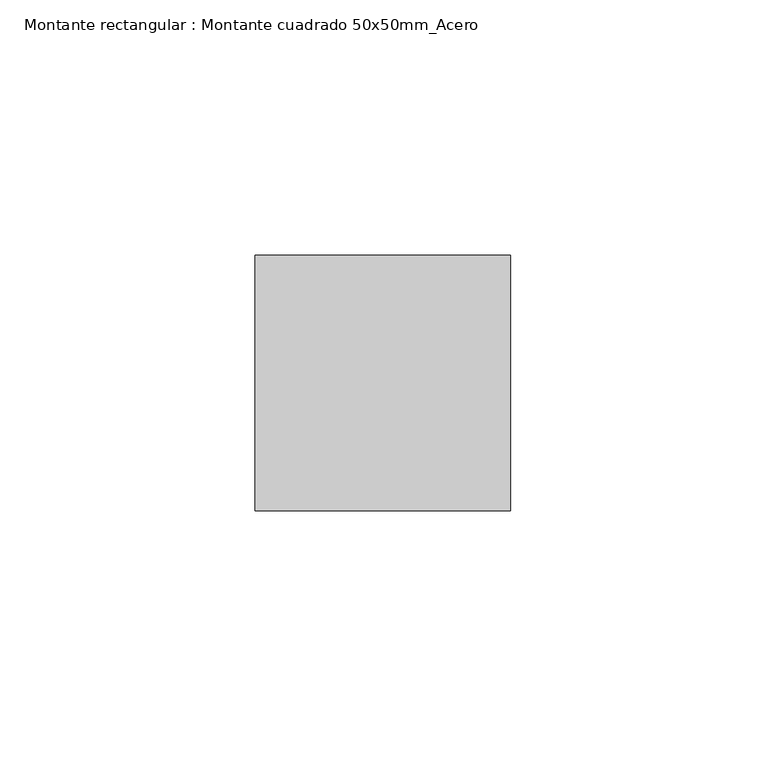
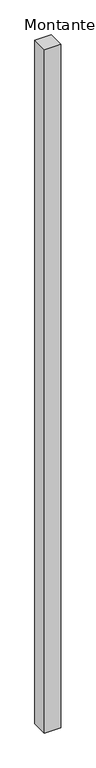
"""IFC4 building model written with IfcOpenShell, lengths in millimetres: member geometry, Montante rectangular : Montante cuadrado 50x50mm_Acero."""

import ifcopenshell
import ifcopenshell.guid

model = None  # the IFC model being written
_history = None  # IfcOwnerHistory: only IFC2X3 demands one
_inside = {}  # id of a spatial element -> (the spatial element, [elements in it])
_under = {}  # id of a project, library or spatial element -> (it, [spatial elements below it])
_declared = {}  # id of a project -> (the project, [libraries it declares])
_typed = {}  # id of a type object -> (the type object, [elements of that type])
_made_of = {}  # id of a material, layer set ... -> (it, [elements and type objects made of it])


def new_model(schema):
    """Start an empty IFC model of exactly this schema.

    Asked for "IFC4X3", IfcOpenShell would pick the latest addendum, in which some entities
    have other attributes; the version numbers below select the first issue.
    IFC2X3 requires an IfcOwnerHistory on every rooted entity: one is made here for all.
    """
    global model, _history
    if schema == "IFC4X3":
        model = ifcopenshell.file(schema_version=(4, 3, 0, 0))
    else:
        model = ifcopenshell.file(schema=schema)
    _inside.clear()
    _under.clear()
    _declared.clear()
    _typed.clear()
    _made_of.clear()
    _history = None
    if model.schema == "IFC2X3":
        org = make("IfcOrganization", Name="unknown")
        user = make(
            "IfcPersonAndOrganization",
            ThePerson=make("IfcPerson", FamilyName="unknown"),
            TheOrganization=org,
        )
        app = make(
            "IfcApplication",
            ApplicationDeveloper=org,
            Version="unknown",
            ApplicationFullName="unknown",
            ApplicationIdentifier="unknown",
        )
        _history = make(
            "IfcOwnerHistory",
            OwningUser=user,
            OwningApplication=app,
            ChangeAction="ADDED",
            CreationDate=0,
        )
    return model


def make(cls, **values):
    """One entity of the class cls with the attributes given. An attribute that is None is left unset."""
    return model.create_entity(
        cls, **{name: value for name, value in values.items() if value is not None}
    )


def rooted(cls, **values):
    """An entity with a GlobalId (a new one), such as an element, a storey or a relation."""
    return make(cls, GlobalId=ifcopenshell.guid.new(), OwnerHistory=_history, **values)


def si_unit(unit_type, name, prefix=None):
    """IfcSIUnit, for example si_unit("LENGTHUNIT", "METRE", prefix="MILLI")."""
    return make("IfcSIUnit", UnitType=unit_type, Prefix=prefix, Name=name)


def assignment(units):
    """IfcUnitAssignment: the units of a project."""
    return None if units is None else make("IfcUnitAssignment", Units=units)


def point(xyz):
    """IfcCartesianPoint."""
    return None if xyz is None else make("IfcCartesianPoint", Coordinates=xyz)


def direction(xyz):
    """IfcDirection."""
    return None if xyz is None else make("IfcDirection", DirectionRatios=xyz)


def frame(location, z_axis=None, x_axis=None):
    """IfcAxis2Placement3D, a coordinate frame: its origin and axes. An axis left out is left unset."""
    return make(
        "IfcAxis2Placement3D",
        Location=point(location),
        Axis=direction(z_axis),
        RefDirection=direction(x_axis),
    )


def origin():
    """The frame at (0, 0, 0) with its axes left unset."""
    return frame((0.0, 0.0, 0.0))


def place(relative_to, where):
    """IfcLocalPlacement: puts the frame where relative to a parent placement (None: the world)."""
    return make(
        "IfcLocalPlacement", PlacementRelTo=relative_to, RelativePlacement=where
    )


def context(
    kind, dimensions, precision=None, world=None, true_north=None, identifier=None
):
    """IfcGeometricRepresentationContext, for example the 3D "Model" context."""
    return make(
        "IfcGeometricRepresentationContext",
        ContextIdentifier=identifier,
        ContextType=kind,
        CoordinateSpaceDimension=dimensions,
        Precision=precision,
        WorldCoordinateSystem=world,
        TrueNorth=true_north,
    )


def project(units=None, contexts=None):
    """IfcProject with its units and contexts."""
    return rooted(
        "IfcProject",
        Name="project",
        RepresentationContexts=contexts,
        UnitsInContext=assignment(units),
    )


def spatial(cls, under=None, at=None, **own):
    """A site, building, storey or space (cls), placed at a placement, below another one or the project."""
    s = rooted(cls, ObjectPlacement=at, **own)
    if under is not None:
        _under.setdefault(under.id(), (under, []))[1].append(s)
    return s


def polyline(points):
    """IfcPolyline through the points."""
    return make("IfcPolyline", Points=[point(p) for p in points])


def outline(outer, holes=None, kind="AREA"):
    """IfcArbitraryClosedProfileDef: a profile drawn as a closed curve; with holes, ...WithVoids."""
    if holes is None:
        return make("IfcArbitraryClosedProfileDef", ProfileType=kind, OuterCurve=outer)
    return make(
        "IfcArbitraryProfileDefWithVoids",
        ProfileType=kind,
        OuterCurve=outer,
        InnerCurves=holes,
    )


def extrude(swept, where, along, depth):
    """IfcExtrudedAreaSolid: the profile swept, set in the frame where, extruded along a direction by depth."""
    return make(
        "IfcExtrudedAreaSolid",
        SweptArea=swept,
        Position=where,
        ExtrudedDirection=direction(along),
        Depth=depth,
    )


def shape(context_of_items, identifier, shape_type, items):
    """IfcShapeRepresentation: the items that make up one representation, for example the "Body"."""
    return make(
        "IfcShapeRepresentation",
        ContextOfItems=context_of_items,
        RepresentationIdentifier=identifier,
        RepresentationType=shape_type,
        Items=items,
    )


def source(mapping_origin, context_of_items, identifier, shape_type, items):
    """IfcRepresentationMap: a shape defined once, which mapped items show again and again."""
    return make(
        "IfcRepresentationMap",
        MappingOrigin=mapping_origin,
        MappedRepresentation=shape(context_of_items, identifier, shape_type, items),
    )


def transform(
    local_origin,
    x_axis=None,
    y_axis=None,
    z_axis=None,
    scale=None,
    scale2=None,
    scale3=None,
    uniform=True,
):
    """IfcCartesianTransformationOperator3D, or its non-uniform kind. x_axis, y_axis, z_axis: its Axis1, 2, 3."""
    if uniform:
        return make(
            "IfcCartesianTransformationOperator3D",
            Axis1=direction(x_axis),
            Axis2=direction(y_axis),
            LocalOrigin=point(local_origin),
            Scale=scale,
            Axis3=direction(z_axis),
        )
    return make(
        "IfcCartesianTransformationOperator3DnonUniform",
        Axis1=direction(x_axis),
        Axis2=direction(y_axis),
        LocalOrigin=point(local_origin),
        Scale=scale,
        Axis3=direction(z_axis),
        Scale2=scale2,
        Scale3=scale3,
    )


def mapped(mapping_source, mapping_target):
    """IfcMappedItem: shows the shape of a source again, moved by a transform."""
    return make(
        "IfcMappedItem", MappingSource=mapping_source, MappingTarget=mapping_target
    )


def made_of(thing, what):
    """Note that an element or type object is made of a material, layer set ...; save() writes the relation."""
    if what is not None:
        _made_of.setdefault(what.id(), (what, []))[1].append(thing)
    return thing


def element(
    cls,
    number,
    at=None,
    inside=None,
    cuts=None,
    type_object=None,
    material=None,
    context=None,
    identifier="Body",
    shape_type=None,
    held_by="IfcProductDefinitionShape",
    body=None,
    shapes=None,
    **own,
):
    """One element of the class cls, such as IfcWall. Its Tag is "e" and its number.

    at: its placement. inside: the storey or other place that contains it. cuts: it is an
    opening in that element (IfcRelVoidsElement). A single representation is given by context,
    identifier, shape_type and body (its items); several are given by shapes. held_by: the class
    of the entity that holds the representations. save() writes the other relations.
    """
    e = rooted(cls, Tag="e%d" % number, ObjectPlacement=at, **own)
    if body is not None:
        shapes = [shape(context, identifier, shape_type, body)]
    if shapes is not None:
        e.Representation = make(held_by, Representations=shapes)
    if inside is not None:
        _inside.setdefault(inside.id(), (inside, []))[1].append(e)
    if cuts is not None:
        rooted(
            "IfcRelVoidsElement", RelatingBuildingElement=cuts, RelatedOpeningElement=e
        )
    if type_object is not None:
        _typed.setdefault(type_object.id(), (type_object, []))[1].append(e)
    return made_of(e, material)


def aggregate(whole, parts):
    """IfcRelAggregates: a whole, such as a stair, and the parts it consists of."""
    return rooted("IfcRelAggregates", RelatingObject=whole, RelatedObjects=parts)


def save(model, path):
    """Write the relations noted so far, then the file.

    IfcRelAggregates (storeys below a building ...), IfcRelContainedInSpatialStructure (elements
    in a storey), IfcRelDefinesByType, IfcRelAssociatesMaterial and IfcRelDeclares: one each for
    every whole, place, type object, material and project.
    """
    for whole, parts in _under.values():
        aggregate(whole, parts)
    for where, things in _inside.values():
        rooted(
            "IfcRelContainedInSpatialStructure",
            RelatedElements=things,
            RelatingStructure=where,
        )
    for kind, things in _typed.values():
        rooted("IfcRelDefinesByType", RelatedObjects=things, RelatingType=kind)
    for what, things in _made_of.values():
        rooted("IfcRelAssociatesMaterial", RelatedObjects=things, RelatingMaterial=what)
    for by, libraries in _declared.values():
        rooted("IfcRelDeclares", RelatingContext=by, RelatedDefinitions=libraries)
    model.write(path)


def montante_rectangular_montante_cuadrado_50x50mm_acero_47203e4b(model_context):
    return source(origin(), model_context, "Body", "SweptSolid", [
        extrude(outline(polyline([(0.0, 0.0), (0.0, -50.0), (-50.0, -50.0), (-50.0, 0.0), (0.0, 0.0)])), frame((0.0, 0.0, -2200.0), z_axis=(0.0, 0.0, 1.0), x_axis=(1.0, 0.0, 0.0)), (0.0, 0.0, 1.0), 2200.0),
    ])


if __name__ == "__main__":
    model = new_model("IFC4")
    model_context = context("Model", 3, world=origin())
    ifc_project = project(units=[si_unit("LENGTHUNIT", "METRE", prefix="MILLI")], contexts=[model_context])
    site = spatial("IfcSite", under=ifc_project)
    building = spatial("IfcBuilding", under=site)
    placement = place(None, origin())
    montante_rectangular_montante_cuadrado_50x50mm_acero_shape = montante_rectangular_montante_cuadrado_50x50mm_acero_47203e4b(model_context)
    element("IfcMember", 1, ObjectType="Montante rectangular : Montante cuadrado 50x50mm_Acero", at=placement, inside=building, context=model_context, shape_type="MappedRepresentation", body=[
        mapped(montante_rectangular_montante_cuadrado_50x50mm_acero_shape, transform((0.0, 0.0, 0.0), x_axis=(1.0, 0.0, 0.0), y_axis=(0.0, 1.0, 0.0), z_axis=(0.0, 0.0, 1.0))),
    ])
    save(model, "model.ifc")
